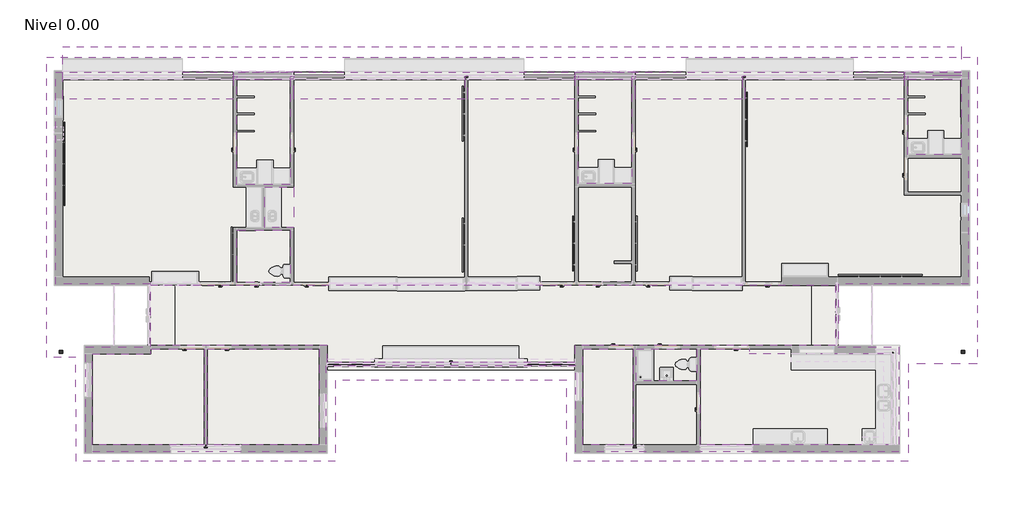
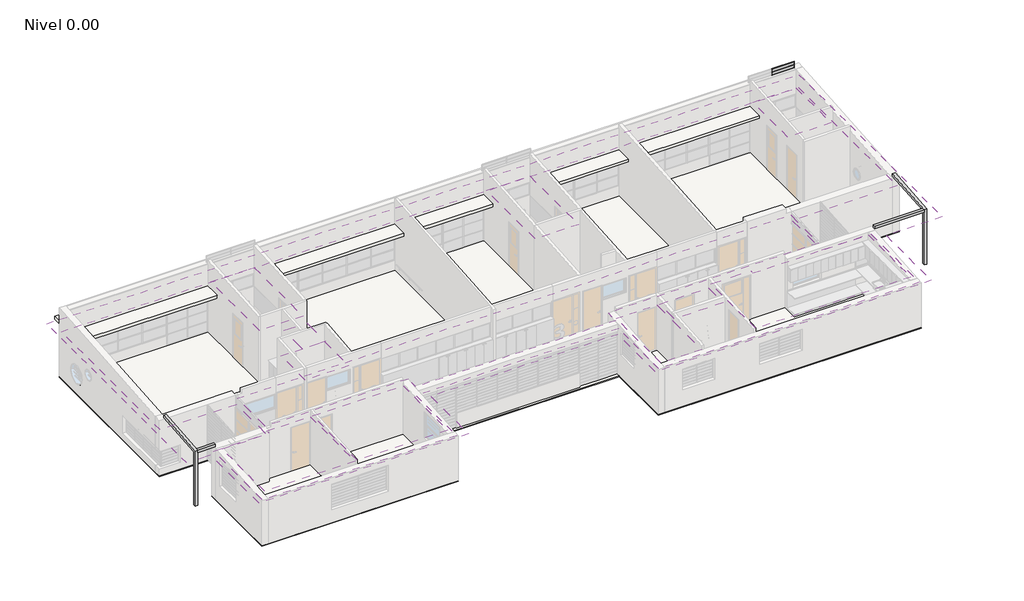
# One storey, part 26 of 27: 28 members, 22 slabs, 14 columns, 11 coverings, 7 plates, 2 proxies, 2 roofs.
"""IFC4 building model written with IfcOpenShell, lengths in millimetres."""

from ifc_helpers import new_model, si_unit, frame, origin, place, context, project, spatial, polyline, outline, extrude, faceted_brep, transform, mapped, element, save
from components import m_support_metal_circular_m_support_metal_circular_0da74429, column_d02f8714, column_a2f402ee, circular_mullion_eb3a7dd2, l_corner_mullion_c65f2da1, rectangular_mullion_bccfeea3, system_panel_921cbf43, system_panel_f5a5ada1

model = new_model("IFC4")

# Units and contexts
model_context = context("Model", 3, world=origin())
ifc_project = project(units=[si_unit("LENGTHUNIT", "METRE", prefix="MILLI")], contexts=[model_context])

# Site, building, storey
site = spatial("IfcSite", under=ifc_project)
building = spatial("IfcBuilding", under=site)
storey = spatial("IfcBuildingStorey", under=building, Name="Nivel 0.00", Elevation=0.0)

# Proxies
placement = place(None, origin())
m_support_metal_circular_m_support_metal_circular_shape = m_support_metal_circular_m_support_metal_circular_0da74429(model_context)
element("IfcBuildingElementProxy", 1, Name="M_Support - Metal - Circular : M_Support - Metal - Circular", ObjectType="M_Support - Metal - Circular : M_Support - Metal - Circular", at=placement, inside=storey, context=model_context, shape_type="MappedRepresentation", body=[
    mapped(m_support_metal_circular_m_support_metal_circular_shape, transform((-9520.5924627, -499.9017557, 420.0), x_axis=(0.0, -1.0, 0.0), y_axis=(1.0, 0.0, 0.0), z_axis=(0.0, 0.0, 1.0))),
])
element("IfcBuildingElementProxy", 2, Name="M_Support - Metal - Circular : M_Support - Metal - Circular", ObjectType="M_Support - Metal - Circular : M_Support - Metal - Circular", at=placement, inside=storey, context=model_context, shape_type="MappedRepresentation", body=[
    mapped(m_support_metal_circular_m_support_metal_circular_shape, transform((-930.5693128, -148.2731068, 420.0), x_axis=(0.0, -1.0, 0.0), y_axis=(1.0, 0.0, 0.0), z_axis=(0.0, 0.0, 1.0))),
])

# Columns
column_shape = column_d02f8714(model_context)
element("IfcColumn", 3, ObjectType="ARCO_MET-01 : ARCO_MET-01", at=placement, inside=storey, context=model_context, shape_type="MappedRepresentation", body=[
    mapped(column_shape, transform((0.0, 0.0, 0.0), x_axis=(1.0, 0.0, 0.0), y_axis=(0.0, 1.0, 0.0), z_axis=(0.0, 0.0, 1.0))),
])
column_2_shape = column_a2f402ee(model_context)
element("IfcColumn", 4, ObjectType="ARCO_MET-02 : ARCO_MET-02", at=placement, inside=storey, context=model_context, shape_type="MappedRepresentation", body=[
    mapped(column_2_shape, transform((0.0, 0.0, 0.0), x_axis=(1.0, 0.0, 0.0), y_axis=(0.0, 1.0, 0.0), z_axis=(0.0, 0.0, 1.0))),
])
element("IfcColumn", 5, ObjectType="ARQ_COLUMNA : ARQ_PIL_ALU_100x100mm", at=placement, inside=storey, context=model_context, shape_type="SweptSolid", body=[
    extrude(outline(polyline([(-1321.1221232, -3665.5609004), (-1321.1221232, -3765.5609004), (-1421.1221232, -3765.5609004), (-1421.1221232, -3665.5609004), (-1321.1221232, -3665.5609004)])), frame((0.0, 0.0, 700.0), z_axis=(0.0, 0.0, 1.0), x_axis=(1.0, 0.0, 0.0)), (0.0, 0.0, 1.0), 1400.0),
])
element("IfcColumn", 6, ObjectType="ARQ_COLUMNA : ARQ_PIL_ALU_100x100mm", at=placement, inside=storey, context=model_context, shape_type="SweptSolid", body=[
    extrude(outline(polyline([(-10437.8124755, -6790.6047653), (-10437.8124755, -6890.6047653), (-10537.8124755, -6890.6047653), (-10537.8124755, -6790.6047653), (-10437.8124755, -6790.6047653)])), frame((0.0, 0.0, 600.0), z_axis=(0.0, 0.0, 1.0), x_axis=(1.0, 0.0, 0.0)), (0.0, 0.0, 1.0), 1250.0),
])
element("IfcColumn", 7, ObjectType="ARQ_COLUMNA : ARQ_PIL_ALU_120x120mm", at=placement, inside=storey, context=model_context, shape_type="SweptSolid", body=[
    extrude(outline(polyline([(15605.1953298, 6929.4391195), (15605.1953298, 6809.4391195), (15485.1953298, 6809.4391195), (15485.1953298, 6929.4391195), (15605.1953298, 6929.4391195)])), frame((0.0, 0.0, 1500.0), z_axis=(0.0, 0.0, 1.0), x_axis=(1.0, 0.0, 0.0)), (0.0, 0.0, 1.0), 600.0),
])
element("IfcColumn", 8, ObjectType="ARQ_COLUMNA : ARQ_PIL_ALU_120x120mm", at=placement, inside=storey, context=model_context, shape_type="Brep", body=[
    faceted_brep([(9574.3567784, 6929.4460983, 2100.0), (9454.3567784, 6929.4460983, 2100.0), (9454.3567784, 6824.4390418, 2100.0), (9454.3567784, 6809.4460983, 2100.0), (9574.3567784, 6809.4460983, 2100.0), (9574.3567784, 6824.4390418, 2100.0), (9574.3567784, 6929.4460983, 500.0), (9574.3567784, 6809.4460983, 500.0), (9454.3567784, 6809.4460983, 500.0), (9454.3567784, 6929.4460983, 500.0)], [[[0, 1, 2, 3, 4, 5]], [[6, 7, 8, 9]], [[1, 0, 6, 9]], [[9, 8, 3, 2, 1]], [[4, 3, 8, 7]], [[7, 6, 0, 5, 4]]]),
])
element("IfcColumn", 9, ObjectType="ARQ_COLUMNA : ARQ_PIL_ALU_120x120mm", at=placement, inside=storey, context=model_context, shape_type="Brep", body=[
    faceted_brep([(3354.3810741, 6929.4388916, 2100.0), (3234.3810741, 6929.4388916, 2100.0), (3234.3810741, 6824.4390418, 2100.0), (3234.3810741, 6809.4388916, 2100.0), (3354.3810741, 6809.4388916, 2100.0), (3354.3810741, 6824.4390418, 2100.0), (3354.3810741, 6929.4388916, 1500.0), (3354.3810741, 6809.4388916, 1500.0), (3234.6614898, 6809.4388916, 1500.0), (3234.3810741, 6809.4388916, 1500.0), (3234.3810741, 6929.4388916, 1500.0)], [[[0, 1, 2, 3, 4, 5]], [[6, 7, 8, 9, 10]], [[1, 0, 6, 10]], [[10, 9, 3, 2, 1]], [[4, 3, 9, 8, 7]], [[7, 6, 0, 5, 4]]]),
])
element("IfcColumn", 10, ObjectType="ARQ_COLUMNA : ARQ_PIL_ALU_120x120mm", at=placement, inside=storey, context=model_context, shape_type="Brep", body=[
    faceted_brep([(5474.4935187, 6929.4388916, 2100.0), (5354.4935187, 6929.4388916, 2100.0), (5354.4935187, 6824.4390418, 2100.0), (5414.4935187, 6824.4390418, 2100.0), (5474.4935187, 6824.4390418, 2100.0), (5354.4935187, 6929.4388916, 1500.0), (5474.4935187, 6929.4388916, 1500.0), (5474.4935187, 6824.4390418, 1500.0), (5354.4935187, 6824.4390418, 1500.0)], [[[0, 1, 2, 3, 4]], [[5, 6, 7, 8]], [[1, 0, 6, 5]], [[1, 5, 8, 2]], [[6, 0, 4, 7]], [[4, 3, 2, 8, 7]]]),
])
element("IfcColumn", 11, ObjectType="ARQ_COLUMNA : ARQ_PIL_ALU_120x120mm", at=placement, inside=storey, context=model_context, shape_type="Brep", body=[
    faceted_brep([(-745.5693128, 6929.4278548, 2100.0), (-865.5693128, 6929.4278548, 2100.0), (-865.5693128, 6824.4390418, 2100.0), (-865.5693128, 6809.4278548, 2100.0), (-745.5693128, 6809.4278548, 2100.0), (-745.5693128, 6824.4390418, 2100.0), (-745.5693128, 6929.4278548, 500.0), (-745.5693128, 6809.4278548, 500.0), (-865.5693128, 6809.4278548, 500.0), (-865.5693128, 6929.4278548, 500.0)], [[[0, 1, 2, 3, 4, 5]], [[6, 7, 8, 9]], [[1, 0, 6, 9]], [[9, 8, 3, 2, 1]], [[4, 3, 8, 7]], [[7, 6, 0, 5, 4]]]),
])
element("IfcColumn", 12, ObjectType="ARQ_COLUMNA : ARQ_PIL_ALU_120x120mm", at=placement, inside=storey, context=model_context, shape_type="Brep", body=[
    faceted_brep([(-7215.5692731, 6929.439065, 2100.0), (-7335.5692731, 6929.439065, 2100.0), (-7335.5692731, 6824.4390418, 2100.0), (-7275.5692731, 6824.4390418, 2100.0), (-7215.5692731, 6824.4390418, 2100.0), (-7335.5692731, 6929.439065, 1500.0), (-7215.5692731, 6929.439065, 1500.0), (-7215.5692731, 6824.4390418, 1500.0), (-7335.5692731, 6824.4390418, 1500.0)], [[[0, 1, 2, 3, 4]], [[5, 6, 7, 8]], [[1, 0, 6, 5]], [[1, 5, 8, 2]], [[6, 0, 4, 7]], [[4, 3, 2, 8, 7]]]),
])
element("IfcColumn", 13, ObjectType="ARQ_COLUMNA : ARQ_PIL_ALU_120x120mm", at=placement, inside=storey, context=model_context, shape_type="Brep", body=[
    faceted_brep([(-9335.5691805, 6929.439065, 2100.0), (-9455.5691805, 6929.439065, 2100.0), (-9455.5691805, 6824.4390418, 2100.0), (-9455.5691805, 6809.439065, 2100.0), (-9335.5691805, 6809.439065, 2100.0), (-9335.5691805, 6824.4390418, 2100.0), (-9335.5691805, 6929.439065, 1500.0), (-9335.5691805, 6809.439065, 1500.0), (-9455.2388409, 6809.439065, 1500.0), (-9455.5691805, 6809.439065, 1500.0), (-9455.5691805, 6929.439065, 1500.0)], [[[0, 1, 2, 3, 4, 5]], [[6, 7, 8, 9, 10]], [[1, 0, 6, 10]], [[10, 9, 3, 2, 1]], [[4, 3, 9, 8, 7]], [[7, 6, 0, 5, 4]]]),
])
element("IfcColumn", 14, ObjectType="ARQ_COLUMNA : ARQ_PIL_ALU_120x120mm", at=placement, inside=storey, context=model_context, shape_type="SweptSolid", body=[
    extrude(outline(polyline([(5519.9777624, -6790.6055729), (5519.9777624, -6910.6055729), (5399.9777624, -6910.6055729), (5399.9777624, -6790.6055729), (5519.9777624, -6790.6055729)])), frame((0.0, 0.0, 800.0), z_axis=(0.0, 0.0, 1.0), x_axis=(1.0, 0.0, 0.0)), (0.0, 0.0, 1.0), 1000.0),
])
element("IfcColumn", 15, ObjectType="ARQ_COLUMNA : ARQ_PIL_ALU_50x50mm", at=placement, inside=storey, context=model_context, shape_type="SweptSolid", body=[
    extrude(outline(polyline([(-15805.2266664, -540.5588937), (-15805.2266664, -590.5588937), (-15855.2266664, -590.5588937), (-15855.2266664, -540.5588937), (-15805.2266664, -540.5588937)])), frame((0.0, 0.0, 300.0), z_axis=(0.0, 0.0, 1.0), x_axis=(1.0, 0.0, 0.0)), (0.0, 0.0, 1.0), 850.0),
])
element("IfcColumn", 16, ObjectType="ARQ_COLUMNA : ARQ_PIL_ALU_50x50mm", at=placement, inside=storey, context=model_context, shape_type="SweptSolid", body=[
    extrude(outline(polyline([(15075.5015264, -3340.6637592), (15075.5015264, -3390.6637592), (15025.5015264, -3390.6637592), (15025.5015264, -3340.6637592), (15075.5015264, -3340.6637592)])), frame((0.0, 0.0, 950.0), z_axis=(0.0, 0.0, 1.0), x_axis=(1.0, 0.0, 0.0)), (0.0, 0.0, 1.0), 550.0),
])

# Coverings
element("IfcCovering", 17, ObjectType="ARQ_CL_MOD_600x600mm", at=placement, inside=storey, context=model_context, shape_type="SweptSolid", body=[
    extrude(outline(polyline([(-7335.5692854, -740.6078399), (-9335.5924627, -740.6078399), (-9335.5924627, 1209.3953137), (-7335.5692854, 1209.3953137), (-7335.5692854, -740.6078399)])), frame((0.0, 0.0, 2200.0), z_axis=(0.0, 0.0, 1.0), x_axis=(1.0, 0.0, 0.0)), (0.0, 0.0, 1.0), 30.0),
])
element("IfcCovering", 18, ObjectType="ARQ_CL_MOD_600x600mm", at=placement, inside=storey, context=model_context, shape_type="SweptSolid", body=[
    extrude(outline(polyline([(-8385.569245, 2809.3952268), (-8385.569245, 1309.3953848), (-9455.5691805, 1309.3953848), (-9455.5691805, 2809.3952268), (-8385.569245, 2809.3952268)])), frame((0.0, 0.0, 2100.0), z_axis=(0.0, 0.0, 1.0), x_axis=(1.0, 0.0, 0.0)), (0.0, 0.0, 1.0), 30.0),
    extrude(outline(polyline([(-8285.569245, 2809.3952268), (-7215.5692731, 2809.3952268), (-7215.5692731, 1309.3953137), (-8285.569245, 1309.3953137), (-8285.569245, 2809.3952268)])), frame((0.0, 0.0, 2100.0), z_axis=(0.0, 0.0, 1.0), x_axis=(1.0, 0.0, 0.0)), (0.0, 0.0, 1.0), 30.0),
])
element("IfcCovering", 19, ObjectType="ARQ_CL_MOD_600x600mm", at=placement, inside=storey, context=model_context, shape_type="SweptSolid", body=[
    extrude(outline(polyline([(-7335.5692731, 2909.3952268), (-9335.5691805, 2909.3952268), (-9335.5691805, 6824.4390418), (-7335.5692731, 6824.4390418), (-7335.5692731, 2909.3952268)])), frame((0.0, 0.0, 2400.0), z_axis=(0.0, 0.0, 1.0), x_axis=(1.0, 0.0, 0.0)), (0.0, 0.0, 1.0), 30.0),
])
element("IfcCovering", 20, ObjectType="ARQ_CL_MOD_600x600mm", at=placement, inside=storey, context=model_context, shape_type="SweptSolid", body=[
    extrude(outline(polyline([(5354.4935187, 2929.3952347), (3354.3810741, 2929.3952347), (3354.3810741, 6824.4390418), (5354.4935187, 6824.4390418), (5354.4935187, 2929.3952347)])), frame((0.0, 0.0, 2400.0), z_axis=(0.0, 0.0, 1.0), x_axis=(1.0, 0.0, 0.0)), (0.0, 0.0, 1.0), 30.0),
])
element("IfcCovering", 21, ObjectType="ARQ_CL_MOD_600x600mm", at=placement, inside=storey, context=model_context, shape_type="SweptSolid", body=[
    extrude(outline(polyline([(15605.1953298, 6824.4390418), (17597.6952928, 6824.4390418), (17597.6952928, 4009.0718892), (15605.1953298, 4009.0718892), (15605.1953298, 6824.4390418)])), frame((0.0, 0.0, 2400.0), z_axis=(0.0, 0.0, 1.0), x_axis=(1.0, 0.0, 0.0)), (0.0, 0.0, 1.0), 30.0),
])
element("IfcCovering", 22, ObjectType="ARQ_CL_MOD_600x600mm", at=placement, inside=storey, context=model_context, shape_type="Brep", body=[
    faceted_brep([(7889.9777626, -3210.5319613, 2670.0982678), (7889.9777626, -6790.5282624, 2380.0982678), (15025.5015264, -6790.5282624, 2380.0982678), (15025.5015264, -3390.6637592, 2655.5065708), (9717.262327, -3390.6637592, 2655.5065708), (9717.262327, -3210.5319613, 2670.0982678), (7889.9777626, -3210.5319613, 2640.0), (9717.262327, -3210.5319613, 2640.0), (9717.262327, -3390.6637592, 2625.408303), (15025.5015264, -3390.6637592, 2625.408303), (15025.5015264, -6790.5282624, 2350.0), (7889.9777626, -6790.5282624, 2350.0)], [[[0, 1, 2, 3, 4, 5]], [[6, 7, 8, 9, 10, 11]], [[1, 0, 6, 11]], [[2, 1, 11, 10]], [[3, 2, 10, 9]], [[4, 3, 9, 8]], [[5, 4, 8, 7]], [[0, 5, 7, 6]]]),
])
element("IfcCovering", 23, ObjectType="ARQ_CL_MOD_600x600mm", at=placement, inside=storey, context=model_context, shape_type="SweptSolid", body=[
    extrude(outline(polyline([(7769.9777626, -3210.6056693), (7769.9777626, -4410.6056693), (5519.9777624, -4410.6056693), (5519.9777624, -3210.6056693), (7769.9777626, -3210.6056693)])), frame((0.0, 0.0, 2200.0), z_axis=(0.0, 0.0, 1.0), x_axis=(1.0, 0.0, 0.0)), (0.0, 0.0, 1.0), 30.0),
])
element("IfcCovering", 24, ObjectType="ARQ_CL_MOD_600x600mm", at=placement, inside=storey, context=model_context, shape_type="SweptSolid", body=[
    extrude(outline(polyline([(5399.9777624, -6790.6055729), (3527.1464348, -6790.6055729), (3527.1464348, -3210.6056693), (5399.9777624, -3210.6056693), (5399.9777624, -4450.6055729), (5399.9777624, -4495.6055729), (5399.9777624, -6790.6055729)])), frame((0.0, 0.0, 2200.0), z_axis=(0.0, 0.0, 1.0), x_axis=(1.0, 0.0, 0.0)), (0.0, 0.0, 1.0), 30.0),
])
element("IfcCovering", 25, ObjectType="ARQ_CL_MOD_600x600mm", at=placement, inside=storey, context=model_context, shape_type="SweptSolid", body=[
    extrude(outline(polyline([(-12535.2388411, -840.5291193), (12922.2725252, -840.5291132), (12922.2749922, -3090.594208), (3227.4757858, -3090.5282622), (3227.4767742, -3715.5609004), (-5969.7254308, -3715.5609004), (-5969.7254308, -3090.5609004), (-12535.2388411, -3090.5608841), (-12535.2388411, -840.5291193)])), frame((0.0, 0.0, 2500.0), z_axis=(0.0, 0.0, 1.0), x_axis=(1.0, 0.0, 0.0)), (0.0, 0.0, 1.0), 30.0),
])
element("IfcCovering", 26, ObjectType="ARQ_CL_MOD_600x600mm", at=placement, inside=storey, context=model_context, shape_type="Brep", body=[
    faceted_brep([(-14705.5691788, -6790.6047653, 2380.0982676), (-10537.8124755, -6790.6047653, 2380.0982676), (-10537.8124755, -3210.6047653, 2670.0982676), (-12532.853063, -3210.6047653, 2670.0982676), (-12532.853063, -3398.1047653, 2654.9097201), (-14705.5691788, -3398.1047653, 2654.9097201), (-14705.5691788, -6790.6047653, 2350.0), (-14705.5691788, -3398.1047653, 2624.8114525), (-12532.853063, -3398.1047653, 2624.8114525), (-12532.853063, -3210.6047653, 2640.0), (-10537.8124755, -3210.6047653, 2640.0), (-10537.8124755, -6790.6047653, 2350.0)], [[[0, 1, 2, 3, 4, 5]], [[6, 7, 8, 9, 10, 11]], [[1, 0, 6, 11]], [[2, 1, 11, 10]], [[3, 2, 10, 9]], [[4, 3, 9, 8]], [[5, 4, 8, 7]], [[0, 5, 7, 6]]]),
])
element("IfcCovering", 27, ObjectType="ARQ_CL_MOD_600x600mm", at=placement, inside=storey, context=model_context, shape_type="SweptSolid", body=[
    extrude(outline(polyline([(-6790.6047653, 2380.0982676), (-3210.6047653, 2670.0982676), (-3210.6047653, 2640.0), (-6790.6047653, 2350.0), (-6790.6047653, 2380.0982676)])), frame((-10437.8124755, 0.0, 0.0), z_axis=(1.0, 0.0, 0.0), x_axis=(0.0, 1.0, 0.0)), (0.0, 0.0, 1.0), 4167.7567049),
])

# Members
circular_mullion_shape = circular_mullion_eb3a7dd2(model_context)
element("IfcMember", 28, ObjectType="Circular Mullion : ARQ_HERR_16mm", at=placement, inside=storey, context=model_context, shape_type="MappedRepresentation", body=[
    mapped(circular_mullion_shape, transform((17591.6952928, 6959.43912, 1650.0), x_axis=(0.0, 0.0, 1.0), y_axis=(0.0, -1.0, 0.0), z_axis=(1.0, 0.0, 0.0))),
])
element("IfcMember", 29, ObjectType="Circular Mullion : ARQ_HERR_16mm", at=placement, inside=storey, context=model_context, shape_type="MappedRepresentation", body=[
    mapped(circular_mullion_shape, transform((17591.6952928, 6959.43912, 1800.0), x_axis=(0.0, 0.0, 1.0), y_axis=(0.0, -1.0, 0.0), z_axis=(1.0, 0.0, 0.0))),
])
element("IfcMember", 30, ObjectType="Circular Mullion : ARQ_HERR_16mm", at=placement, inside=storey, context=model_context, shape_type="MappedRepresentation", body=[
    mapped(circular_mullion_shape, transform((17591.6952928, 6959.43912, 1950.0), x_axis=(0.0, 0.0, 1.0), y_axis=(0.0, -1.0, 0.0), z_axis=(1.0, 0.0, 0.0))),
])
element("IfcMember", 31, ObjectType="Circular Mullion : ARQ_HERR_16mm", at=placement, inside=storey, context=model_context, shape_type="MappedRepresentation", body=[
    mapped(circular_mullion_shape, transform((17591.6952928, 6959.43912, 2100.0), x_axis=(0.0, 0.0, 1.0), y_axis=(0.0, -1.0, 0.0), z_axis=(1.0, 0.0, 0.0))),
])
element("IfcMember", 32, ObjectType="Circular Mullion : ARQ_HERR_16mm", at=placement, inside=storey, context=model_context, shape_type="MappedRepresentation", body=[
    mapped(circular_mullion_shape, transform((17591.6952928, 6959.43912, 2250.0), x_axis=(0.0, 0.0, 1.0), y_axis=(0.0, -1.0, 0.0), z_axis=(1.0, 0.0, 0.0))),
])
element("IfcMember", 33, ObjectType="Circular Mullion : ARQ_HERR_16mm", at=placement, inside=storey, context=model_context, shape_type="MappedRepresentation", body=[
    mapped(circular_mullion_shape, transform((17591.6952928, 6959.43912, 2400.0), x_axis=(0.0, 0.0, 1.0), y_axis=(0.0, -1.0, 0.0), z_axis=(1.0, 0.0, 0.0))),
])
element("IfcMember", 34, ObjectType="Circular Mullion : ARQ_HERR_16mm", at=placement, inside=storey, context=model_context, shape_type="MappedRepresentation", body=[
    mapped(circular_mullion_shape, transform((17591.6952928, 6959.43912, 2550.0), x_axis=(0.0, 0.0, 1.0), y_axis=(0.0, -1.0, 0.0), z_axis=(1.0, 0.0, 0.0))),
])
element("IfcMember", 35, ObjectType="Circular Mullion : ARQ_HERR_16mm", at=placement, inside=storey, context=model_context, shape_type="MappedRepresentation", body=[
    mapped(circular_mullion_shape, transform((17591.6952928, 6959.43912, 2700.0), x_axis=(0.0, 0.0, 1.0), y_axis=(0.0, -1.0, 0.0), z_axis=(1.0, 0.0, 0.0))),
])
element("IfcMember", 36, ObjectType="Circular Mullion : ARQ_HERR_16mm", at=placement, inside=storey, context=model_context, shape_type="MappedRepresentation", body=[
    mapped(circular_mullion_shape, transform((17591.6952928, 6959.43912, 2850.0), x_axis=(0.0, 0.0, 1.0), y_axis=(0.0, -1.0, 0.0), z_axis=(1.0, 0.0, 0.0))),
])
element("IfcMember", 37, ObjectType="Circular Mullion : ARQ_HERR_16mm", at=placement, inside=storey, context=model_context, shape_type="MappedRepresentation", body=[
    mapped(circular_mullion_shape, transform((17591.6952928, 6959.43912, 3000.0), x_axis=(0.0, 0.0, 1.0), y_axis=(0.0, -1.0, 0.0), z_axis=(1.0, 0.0, 0.0))),
])
element("IfcMember", 38, ObjectType="Circular Mullion : ARQ_HERR_16mm", at=placement, inside=storey, context=model_context, shape_type="MappedRepresentation", body=[
    mapped(circular_mullion_shape, transform((17591.6952928, 6959.43912, 3150.0), x_axis=(0.0, 0.0, 1.0), y_axis=(0.0, -1.0, 0.0), z_axis=(1.0, 0.0, 0.0))),
])
element("IfcMember", 39, ObjectType="Circular Mullion : ARQ_HERR_16mm", at=placement, inside=storey, context=model_context, shape_type="MappedRepresentation", body=[
    mapped(circular_mullion_shape, transform((17591.6952928, 6959.43912, 3300.0), x_axis=(0.0, 0.0, 1.0), y_axis=(0.0, -1.0, 0.0), z_axis=(1.0, 0.0, 0.0))),
])
element("IfcMember", 40, ObjectType="Circular Mullion : ARQ_HERR_16mm", at=placement, inside=storey, context=model_context, shape_type="MappedRepresentation", body=[
    mapped(circular_mullion_shape, transform((17591.6952928, 6959.43912, 3450.0), x_axis=(0.0, 0.0, 1.0), y_axis=(0.0, -1.0, 0.0), z_axis=(1.0, 0.0, 0.0))),
])
l_corner_mullion_shape = l_corner_mullion_c65f2da1(model_context)
element("IfcMember", 41, ObjectType="L Corner Mullion : ARQ_HERR_15X6mm", at=placement, inside=storey, context=model_context, shape_type="MappedRepresentation", body=[
    mapped(l_corner_mullion_shape, transform((17591.6952928, 6959.43912, 3600.0), x_axis=(0.0, 0.0, 1.0), y_axis=(0.0, -1.0, 0.0), z_axis=(1.0, 0.0, 0.0))),
])
rectangular_mullion_shape = rectangular_mullion_bccfeea3(model_context)
element("IfcMember", 42, ObjectType="Rectangular Mullion : ARQ_HERR_15X6mm", at=placement, inside=storey, context=model_context, shape_type="MappedRepresentation", body=[
    mapped(rectangular_mullion_shape, transform((17597.6952928, 6959.43912, 1500.0), x_axis=(1.0, 0.0, 0.0), y_axis=(0.0, -1.0, 0.0), z_axis=(0.0, 0.0, -1.0))),
])
element("IfcMember", 43, ObjectType="Rectangular Mullion : ARQ_HERR_15X6mm", at=placement, inside=storey, context=model_context, shape_type="MappedRepresentation", body=[
    mapped(rectangular_mullion_shape, transform((17597.6952928, 6959.43912, 1650.0), x_axis=(1.0, 0.0, 0.0), y_axis=(0.0, -1.0, 0.0), z_axis=(0.0, 0.0, -1.0))),
])
element("IfcMember", 44, ObjectType="Rectangular Mullion : ARQ_HERR_15X6mm", at=placement, inside=storey, context=model_context, shape_type="MappedRepresentation", body=[
    mapped(rectangular_mullion_shape, transform((17597.6952928, 6959.43912, 1800.0), x_axis=(1.0, 0.0, 0.0), y_axis=(0.0, -1.0, 0.0), z_axis=(0.0, 0.0, -1.0))),
])
element("IfcMember", 45, ObjectType="Rectangular Mullion : ARQ_HERR_15X6mm", at=placement, inside=storey, context=model_context, shape_type="MappedRepresentation", body=[
    mapped(rectangular_mullion_shape, transform((17597.6952928, 6959.43912, 1950.0), x_axis=(1.0, 0.0, 0.0), y_axis=(0.0, -1.0, 0.0), z_axis=(0.0, 0.0, -1.0))),
])
element("IfcMember", 46, ObjectType="Rectangular Mullion : ARQ_HERR_15X6mm", at=placement, inside=storey, context=model_context, shape_type="MappedRepresentation", body=[
    mapped(rectangular_mullion_shape, transform((17597.6952928, 6959.43912, 2100.0), x_axis=(1.0, 0.0, 0.0), y_axis=(0.0, -1.0, 0.0), z_axis=(0.0, 0.0, -1.0))),
])
element("IfcMember", 47, ObjectType="Rectangular Mullion : ARQ_HERR_15X6mm", at=placement, inside=storey, context=model_context, shape_type="MappedRepresentation", body=[
    mapped(rectangular_mullion_shape, transform((17597.6952928, 6959.43912, 2250.0), x_axis=(1.0, 0.0, 0.0), y_axis=(0.0, -1.0, 0.0), z_axis=(0.0, 0.0, -1.0))),
])
element("IfcMember", 48, ObjectType="Rectangular Mullion : ARQ_HERR_15X6mm", at=placement, inside=storey, context=model_context, shape_type="MappedRepresentation", body=[
    mapped(rectangular_mullion_shape, transform((17597.6952928, 6959.43912, 2400.0), x_axis=(1.0, 0.0, 0.0), y_axis=(0.0, -1.0, 0.0), z_axis=(0.0, 0.0, -1.0))),
])
element("IfcMember", 49, ObjectType="Rectangular Mullion : ARQ_HERR_15X6mm", at=placement, inside=storey, context=model_context, shape_type="MappedRepresentation", body=[
    mapped(rectangular_mullion_shape, transform((17597.6952928, 6959.43912, 2550.0), x_axis=(1.0, 0.0, 0.0), y_axis=(0.0, -1.0, 0.0), z_axis=(0.0, 0.0, -1.0))),
])
element("IfcMember", 50, ObjectType="Rectangular Mullion : ARQ_HERR_15X6mm", at=placement, inside=storey, context=model_context, shape_type="MappedRepresentation", body=[
    mapped(rectangular_mullion_shape, transform((17597.6952928, 6959.43912, 2700.0), x_axis=(1.0, 0.0, 0.0), y_axis=(0.0, -1.0, 0.0), z_axis=(0.0, 0.0, -1.0))),
])
element("IfcMember", 51, ObjectType="Rectangular Mullion : ARQ_HERR_15X6mm", at=placement, inside=storey, context=model_context, shape_type="MappedRepresentation", body=[
    mapped(rectangular_mullion_shape, transform((17597.6952928, 6959.43912, 2850.0), x_axis=(1.0, 0.0, 0.0), y_axis=(0.0, -1.0, 0.0), z_axis=(0.0, 0.0, -1.0))),
])
element("IfcMember", 52, ObjectType="Rectangular Mullion : ARQ_HERR_15X6mm", at=placement, inside=storey, context=model_context, shape_type="MappedRepresentation", body=[
    mapped(rectangular_mullion_shape, transform((17597.6952928, 6959.43912, 3000.0), x_axis=(1.0, 0.0, 0.0), y_axis=(0.0, -1.0, 0.0), z_axis=(0.0, 0.0, -1.0))),
])
element("IfcMember", 53, ObjectType="Rectangular Mullion : ARQ_HERR_15X6mm", at=placement, inside=storey, context=model_context, shape_type="MappedRepresentation", body=[
    mapped(rectangular_mullion_shape, transform((17597.6952928, 6959.43912, 3150.0), x_axis=(1.0, 0.0, 0.0), y_axis=(0.0, -1.0, 0.0), z_axis=(0.0, 0.0, -1.0))),
])
element("IfcMember", 54, ObjectType="Rectangular Mullion : ARQ_HERR_15X6mm", at=placement, inside=storey, context=model_context, shape_type="MappedRepresentation", body=[
    mapped(rectangular_mullion_shape, transform((17597.6952928, 6959.43912, 3300.0), x_axis=(1.0, 0.0, 0.0), y_axis=(0.0, -1.0, 0.0), z_axis=(0.0, 0.0, -1.0))),
])
element("IfcMember", 55, ObjectType="Rectangular Mullion : ARQ_HERR_15X6mm", at=placement, inside=storey, context=model_context, shape_type="MappedRepresentation", body=[
    mapped(rectangular_mullion_shape, transform((17597.6952928, 6959.43912, 3450.0), x_axis=(1.0, 0.0, 0.0), y_axis=(0.0, -1.0, 0.0), z_axis=(0.0, 0.0, -1.0))),
])

# Plates
system_panel_shape = system_panel_921cbf43(model_context)
element("IfcPlate", 56, ObjectType="System Panel : VACÍO", at=placement, inside=storey, context=model_context, shape_type="MappedRepresentation", body=[
    mapped(system_panel_shape, transform((17069.570302, 6959.43912, 3458.0), x_axis=(1.0, 0.0, 0.0), y_axis=(0.0, 1.0, 0.0), z_axis=(0.0, 0.0, 1.0))),
])
system_panel_2_shape = system_panel_f5a5ada1(model_context)
element("IfcPlate", 57, ObjectType="System Panel : VACÍO", at=placement, inside=storey, context=model_context, shape_type="MappedRepresentation", body=[
    mapped(system_panel_2_shape, transform((17069.570302, 6959.43912, 2558.0), x_axis=(1.0, 0.0, 0.0), y_axis=(0.0, 1.0, 0.0), z_axis=(0.0, 0.0, 1.0))),
])
element("IfcPlate", 58, ObjectType="System Panel : VACÍO", at=placement, inside=storey, context=model_context, shape_type="MappedRepresentation", body=[
    mapped(system_panel_2_shape, transform((17069.570302, 6959.43912, 2708.0), x_axis=(1.0, 0.0, 0.0), y_axis=(0.0, 1.0, 0.0), z_axis=(0.0, 0.0, 1.0))),
])
element("IfcPlate", 59, ObjectType="System Panel : VACÍO", at=placement, inside=storey, context=model_context, shape_type="MappedRepresentation", body=[
    mapped(system_panel_2_shape, transform((17069.570302, 6959.43912, 2858.0), x_axis=(1.0, 0.0, 0.0), y_axis=(0.0, 1.0, 0.0), z_axis=(0.0, 0.0, 1.0))),
])
element("IfcPlate", 60, ObjectType="System Panel : VACÍO", at=placement, inside=storey, context=model_context, shape_type="MappedRepresentation", body=[
    mapped(system_panel_2_shape, transform((17069.570302, 6959.43912, 3008.0), x_axis=(1.0, 0.0, 0.0), y_axis=(0.0, 1.0, 0.0), z_axis=(0.0, 0.0, 1.0))),
])
element("IfcPlate", 61, ObjectType="System Panel : VACÍO", at=placement, inside=storey, context=model_context, shape_type="MappedRepresentation", body=[
    mapped(system_panel_2_shape, transform((17069.570302, 6959.43912, 3158.0), x_axis=(1.0, 0.0, 0.0), y_axis=(0.0, 1.0, 0.0), z_axis=(0.0, 0.0, 1.0))),
])
element("IfcPlate", 62, ObjectType="System Panel : VACÍO", at=placement, inside=storey, context=model_context, shape_type="MappedRepresentation", body=[
    mapped(system_panel_2_shape, transform((17069.570302, 6959.43912, 3308.0), x_axis=(1.0, 0.0, 0.0), y_axis=(0.0, 1.0, 0.0), z_axis=(0.0, 0.0, 1.0))),
])

# Roofs
element("IfcRoof", 63, ObjectType="CUBIERTA_ISODEC_8%", at=placement, inside=storey, context=model_context, shape_type="Brep", body=[
    faceted_brep([(-16405.4704447, -3533.0607118, 2650.5486286), (-16405.4704447, 7639.4390418, 3550.0), (18205.5256328, 7639.4390418, 3550.0), (18205.5256328, -3778.8293604, 2630.7628194), (15625.5015264, -3778.8293604, 2630.7628194), (15625.5015264, -7390.5282622, 2339.9999998), (2927.4757858, -7390.5282622, 2339.9999998), (2927.4757858, -4390.5609032, 2581.5148635), (-5669.7254307, -4390.5609032, 2581.5148635), (-5669.7254307, -7390.5282597, 2340.0), (-15305.2388407, -7390.5282597, 2340.0), (-15314.316854, -3533.0607118, 2650.5486286), (-16405.4704447, 7639.4390418, 3700.4853041), (-16405.4704447, -3533.0607118, 2801.0339327), (-15314.316854, -3533.0607118, 2801.0339327), (-15305.2388407, -7390.5282597, 2490.4853041), (-5669.7254307, -7390.5282597, 2490.4853041), (-5669.7254307, -4390.5609032, 2732.0001676), (2927.4757858, -4390.5609032, 2732.0001676), (2927.4757858, -7390.5282622, 2490.4853039), (15625.5015264, -7390.5282622, 2490.4853039), (15625.5015264, -3778.8293604, 2781.2481235), (18205.5256328, -3778.8293604, 2781.2481235), (18205.5256328, 7639.4390418, 3700.4853041)], [[[0, 1, 2, 3, 4, 5, 6, 7, 8, 9, 10, 11]], [[12, 13, 14, 15, 16, 17, 18, 19, 20, 21, 22, 23]], [[13, 12, 1, 0]], [[12, 23, 2, 1]], [[23, 22, 3, 2]], [[22, 21, 4, 3]], [[21, 20, 5, 4]], [[20, 19, 6, 5]], [[19, 18, 7, 6]], [[18, 17, 8, 7]], [[17, 16, 9, 8]], [[16, 15, 10, 9]], [[15, 14, 11, 10]], [[14, 13, 0, 11]]]),
])
element("IfcRoof", 64, ObjectType="VIGA_HA", at=placement, inside=storey, context=model_context, shape_type="Brep", body=[
    faceted_brep([(-16055.4703321, 7089.4390418, 3305.0), (17862.6952928, 7089.4390418, 3305.0), (17862.6952928, -798.1235845, 2668.6381092), (13033.3180123, -798.1235845, 2668.6381092), (13033.3180123, -3140.6637592, 2479.6439464), (15275.5015264, -3140.6637592, 2479.6439464), (15275.5015264, -7040.6055729, 2164.9999348), (3277.1464348, -7040.6055729, 2164.9999348), (3277.1464348, -3840.5609004, 2423.1768362), (-6020.0557705, -3840.5609004, 2423.1768362), (-6020.0557705, -7040.6047653, 2165.0), (-14950.0, -7040.6047653, 2165.0), (-14950.0, -3133.1047653, 2480.2537997), (-12535.2388411, -3133.1047653, 2480.2537997), (-12535.2388411, -798.0609004, 2668.6431665), (-16055.4703321, -798.0609004, 2668.6431665), (17597.6952928, 6858.6242925, 3286.378061), (-15805.8995201, 6858.6242925, 3286.378061), (-15805.8995201, -533.0609004, 2690.0231427), (-12332.853063, -533.0609004, 2690.0231427), (-12332.853063, -3398.1047653, 2458.8738235), (-14705.5691788, -3398.1047653, 2458.8738235), (-14705.5691788, -6790.6047653, 2185.1697888), (-6270.0557705, -6790.6047653, 2185.1697888), (-6270.0557705, -3590.5609004, 2443.3466251), (3527.1464348, -3590.5609004, 2443.3466251), (3527.1464348, -6790.6055729, 2185.1697237), (15025.5015264, -6790.6055729, 2185.1697237), (15025.5015264, -3390.6637592, 2459.4741576), (12722.2753212, -3390.6637592, 2459.4741576), (12722.2721881, -533.1235845, 2690.0180854), (17597.6952928, -533.1235845, 2690.0180854), (17862.6952928, 7089.4390418, 3505.6498568), (-16055.4703321, 7089.4390418, 3505.6498568), (-16055.4703321, -798.0609004, 2869.2930233), (-12535.2388411, -798.0609004, 2869.2930233), (-12535.2388411, -3133.1047653, 2680.9036565), (-14950.0, -3133.1047653, 2680.9036565), (-14950.0, -7040.6047653, 2365.6498568), (-6020.0557705, -7040.6047653, 2365.6498568), (-6020.0557705, -3840.5609004, 2623.8266931), (3277.1464348, -3840.5609004, 2623.8266931), (3277.1464348, -7040.6055729, 2365.6497917), (15275.5015264, -7040.6055729, 2365.6497917), (15275.5015264, -3140.6637592, 2680.2938033), (13033.3180123, -3140.6637592, 2680.2938033), (13033.3180123, -798.1235845, 2869.287966), (17862.6952928, -798.1235845, 2869.287966), (-15805.8995201, 6858.6242925, 3487.0279178), (17597.6952928, 6858.6242925, 3487.0279178), (17597.6952928, -533.1235845, 2890.6679422), (12722.2721881, -533.1235845, 2890.6679422), (12722.2753212, -3390.6637592, 2660.1240144), (15025.5015264, -3390.6637592, 2660.1240144), (15025.5015264, -6790.6055729, 2385.8195805), (3527.1464348, -6790.6055729, 2385.8195805), (3527.1464348, -3590.5609004, 2643.9964819), (-6270.0557705, -3590.5609004, 2643.9964819), (-6270.0557705, -6790.6047653, 2385.8196457), (-14705.5691788, -6790.6047653, 2385.8196457), (-14705.5691788, -3398.1047653, 2659.5236803), (-12332.853063, -3398.1047653, 2659.5236803), (-12332.853063, -533.0609004, 2890.6729995), (-15805.8995201, -533.0609004, 2890.6729995)], [[[0, 1, 2, 3, 4, 5, 6, 7, 8, 9, 10, 11, 12, 13, 14, 15], [16, 17, 18, 19, 20, 21, 22, 23, 24, 25, 26, 27, 28, 29, 30, 31]], [[32, 33, 34, 35, 36, 37, 38, 39, 40, 41, 42, 43, 44, 45, 46, 47], [48, 49, 50, 51, 52, 53, 54, 55, 56, 57, 58, 59, 60, 61, 62, 63]], [[1, 0, 33, 32]], [[0, 15, 34, 33]], [[15, 14, 35, 34]], [[12, 11, 38, 37]], [[11, 10, 39, 38]], [[10, 9, 40, 39]], [[9, 8, 41, 40]], [[8, 7, 42, 41]], [[7, 6, 43, 42]], [[6, 5, 44, 43]], [[5, 4, 45, 44]], [[3, 2, 47, 46]], [[2, 1, 32, 47]], [[13, 12, 37, 36]], [[14, 13, 36, 35]], [[4, 3, 46, 45]], [[48, 17, 16, 49]], [[49, 16, 31, 50]], [[50, 31, 30, 51]], [[51, 30, 29, 52]], [[52, 29, 28, 53]], [[53, 28, 27, 54]], [[54, 27, 26, 55]], [[55, 26, 25, 56]], [[56, 25, 24, 57]], [[57, 24, 23, 58]], [[58, 23, 22, 59]], [[59, 22, 21, 60]], [[60, 21, 20, 61]], [[61, 20, 19, 62]], [[62, 19, 18, 63]], [[17, 48, 63, 18]]]),
])

# Slabs
element("IfcSlab", 65, ObjectType="ARQ_PAV_TAPETE FELPUDO", at=placement, inside=storey, context=model_context, shape_type="SweptSolid", body=[
    extrude(outline(polyline([(-12635.238841, -3090.6055729), (-12635.238841, -848.0609004), (-12595.5666682, -848.0609004), (-12595.5666682, -840.6093113), (-11630.1369456, -840.6093113), (-11630.1369456, -3090.6055729), (-12635.238841, -3090.6055729)])), frame((0.0, 0.0, -20.0), z_axis=(0.0, 0.0, 1.0), x_axis=(1.0, 0.0, 0.0)), (0.0, 0.0, 1.0), 20.0),
])
element("IfcSlab", 66, ObjectType="ARQ_PAV_TAPETE FELPUDO", at=placement, inside=storey, context=model_context, shape_type="SweptSolid", body=[
    extrude(outline(polyline([(12022.2725255, -3090.6637592), (12022.2725255, -848.1235845), (13022.2725254, -848.1235845), (13022.2725254, -3090.6637592), (12022.2725255, -3090.6637592)])), frame((0.0, 0.0, -20.0), z_axis=(0.0, 0.0, 1.0), x_axis=(1.0, 0.0, 0.0)), (0.0, 0.0, 1.0), 20.0),
])
element("IfcSlab", 67, ObjectType="STR_FND_SOBRESUELO_30mm", at=placement, inside=storey, context=model_context, shape_type="SweptSolid", body=[
    extrude(outline(polyline([(17912.6952928, -848.1235845), (13022.2725254, -848.1235845), (13022.2725254, -3090.6637592), (15325.5015264, -3090.6637592), (15325.5015264, -7090.6055729), (3227.1464348, -7090.6055729), (3227.1464348, -3990.5740908), (-5970.0557705, -3990.5740908), (-5970.0557705, -7090.6047653), (-15005.5691803, -7090.6047653), (-15005.5691803, -3083.1047653), (-12635.238841, -3083.1047653), (-12635.238841, -848.0609004), (-16120.8995201, -848.0609004), (-16120.8995201, 7139.4390418), (-15805.8995201, 7139.4390418), (-15805.8995201, 7079.4391195), (17597.6952928, 7079.4391195), (17597.6952928, 7139.4390418), (17912.6952928, 7139.4390418), (17912.6952928, -848.1235845)])), frame((0.0, 0.0, -50.0), z_axis=(0.0, 0.0, 1.0), x_axis=(1.0, 0.0, 0.0)), (0.0, 0.0, 1.0), 30.0),
])
element("IfcSlab", 68, ObjectType="ARQ_LOSA_HOMRIGON_140mm", at=placement, inside=storey, context=model_context, shape_type="SweptSolid", body=[
    extrude(outline(polyline([(-9455.2388409, 6079.7589129), (-15805.238841, 6079.7589129), (-15805.238841, 8039.7589129), (17605.5878942, 8039.7589129), (17605.5878942, 7079.4391195), (15485.1953298, 7079.4391195), (15485.1953298, 6079.7589129), (9574.3567784, 6079.7589129), (9574.3567784, 6929.4460983), (9454.3567784, 6929.4460983), (9454.3567784, 6079.7589129), (5474.4935187, 6079.7589129), (5474.4935187, 7079.4388916), (3234.6614898, 7079.4388916), (3234.6614898, 6079.7589129), (-745.5693128, 6079.7589129), (-745.5693128, 6929.4278548), (-865.5693128, 6929.4278548), (-865.5693128, 6079.7589129), (-7215.5692731, 6079.7589129), (-7215.5692731, 7079.4391195), (-9455.2388409, 7079.4391195), (-9455.2388409, 6079.7589129)])), frame((0.0, 0.0, 2100.0), z_axis=(0.0, 0.0, 1.0), x_axis=(1.0, 0.0, 0.0)), (0.0, 0.0, 1.0), 140.0),
])
element("IfcSlab", 69, ObjectType="ARQ_PAV_PC_600X600mm", at=placement, inside=storey, context=model_context, shape_type="SweptSolid", body=[
    extrude(outline(polyline([(-11355.1505351, 6809.3952546), (-11355.1505351, 6859.4278274), (-9455.5691805, 6859.4278274), (-9455.5691805, 2809.3952434), (-8385.569245, 2809.3952434), (-8385.569245, 1309.3953848), (-9455.5691929, 1309.3953848), (-9455.5691929, -840.5900199), (-12495.5666682, -840.6083467), (-12495.5666682, -720.6093113), (-12595.5666682, -720.6093113), (-12595.5666682, -533.0609004), (-15805.5372072, -533.0609004), (-15805.5372072, 6809.3952546), (-11355.1505351, 6809.3952546)])), frame((0.0, 0.0, -20.0), z_axis=(0.0, 0.0, 1.0), x_axis=(1.0, 0.0, 0.0)), (0.0, 0.0, 1.0), 20.0),
])
element("IfcSlab", 70, ObjectType="ARQ_PAV_PC_600X600mm", at=placement, inside=storey, context=model_context, shape_type="SweptSolid", body=[
    extrude(outline(polyline([(-7335.5691781, 6809.3952347), (-7335.5691781, 2909.3952268), (-9335.5691804, 2909.3952268), (-9335.5691804, 6809.3952347), (-7335.5691781, 6809.3952347)])), frame((0.0, 0.0, -20.0), z_axis=(0.0, 0.0, 1.0), x_axis=(1.0, 0.0, 0.0)), (0.0, 0.0, 1.0), 20.0),
])
element("IfcSlab", 71, ObjectType="ARQ_PAV_PC_600X600mm", at=placement, inside=storey, context=model_context, shape_type="SweptSolid", body=[
    extrude(outline(polyline([(-7215.5692731, 2809.3952268), (-7215.5692731, 6859.4278274), (-5315.2389837, 6859.4278274), (-5315.2389837, 6809.3952546), (-865.5690809, 6809.3952546), (-865.5690809, -840.5382347), (-7215.569362, -840.576516), (-7215.569362, 1309.3935358), (-8285.569245, 1309.3935358), (-8285.569245, 2809.3952268), (-7215.5692731, 2809.3952268)])), frame((0.0, 0.0, -20.0), z_axis=(0.0, 0.0, 1.0), x_axis=(1.0, 0.0, 0.0)), (0.0, 0.0, 1.0), 20.0),
])
element("IfcSlab", 72, ObjectType="ARQ_PAV_PC_600X600mm", at=placement, inside=storey, context=model_context, shape_type="SweptSolid", body=[
    extrude(outline(polyline([(-7335.5692587, -840.6078399), (-9335.5691804, -840.6078399), (-9335.5691804, 1209.3952347), (-7335.5692587, 1209.3952347), (-7335.5692587, -840.6078399)])), frame((0.0, 0.0, -20.0), z_axis=(0.0, 0.0, 1.0), x_axis=(1.0, 0.0, 0.0)), (0.0, 0.0, 1.0), 20.0),
])
element("IfcSlab", 73, ObjectType="ARQ_PAV_PC_600X600mm", at=placement, inside=storey, context=model_context, shape_type="SweptSolid", body=[
    extrude(outline(polyline([(-745.5689342, 6809.3952536), (1334.5853692, 6809.3952536), (1334.5853692, 6859.4443586), (3234.3311502, 6859.4443586), (3234.3311502, -848.1235845), (-745.5689342, -848.1235845), (-745.5689342, 6809.3952536)])), frame((0.0, 0.0, -20.0), z_axis=(0.0, 0.0, 1.0), x_axis=(1.0, 0.0, 0.0)), (0.0, 0.0, 1.0), 20.0),
])
element("IfcSlab", 74, ObjectType="ARQ_PAV_PC_600X600mm", at=placement, inside=storey, context=model_context, shape_type="SweptSolid", body=[
    extrude(outline(polyline([(3354.4308192, 2929.3952347), (3354.4308192, 6809.3952546), (5354.4309986, 6809.3952546), (5354.4309986, 2929.3952347), (3354.4308192, 2929.3952347)])), frame((0.0, 0.0, -20.0), z_axis=(0.0, 0.0, 1.0), x_axis=(1.0, 0.0, 0.0)), (0.0, 0.0, 1.0), 20.0),
])
element("IfcSlab", 75, ObjectType="ARQ_PAV_PC_600X600mm", at=placement, inside=storey, context=model_context, shape_type="SweptSolid", body=[
    extrude(outline(polyline([(5354.430852, 2809.3952347), (5354.430852, 59.3952347), (4704.4309964, 59.3952347), (4704.4309964, -40.6047653), (5354.4309181, -40.6047653), (5354.4309181, -848.1235845), (3354.4309964, -848.1235845), (3354.4309964, 2809.3952347), (5354.430852, 2809.3952347)])), frame((0.0, 0.0, -20.0), z_axis=(0.0, 0.0, 1.0), x_axis=(1.0, 0.0, 0.0)), (0.0, 0.0, 1.0), 20.0),
])
element("IfcSlab", 76, ObjectType="ARQ_PAV_PC_600X600mm", at=placement, inside=storey, context=model_context, shape_type="SweptSolid", body=[
    extrude(outline(polyline([(5474.5561853, -848.1235845), (5474.5561853, 6859.4443596), (7374.8865078, 6859.4443596), (7374.8865078, 6809.3952352), (9454.3309037, 6809.3952555), (9454.50566, -848.1235845), (5474.5561853, -848.1235845)])), frame((0.0, 0.0, -20.0), z_axis=(0.0, 0.0, 1.0), x_axis=(1.0, 0.0, 0.0)), (0.0, 0.0, 1.0), 20.0),
])
element("IfcSlab", 77, ObjectType="ARQ_PAV_PC_600X600mm", at=placement, inside=storey, context=model_context, shape_type="SweptSolid", body=[
    extrude(outline(polyline([(15605.1952921, 6824.4390418), (17597.6952928, 6824.4390418), (17597.6952928, 4009.0718892), (15605.1952921, 4009.0718892), (15605.1952921, 6824.4390418)])), frame((0.0, 0.0, -20.0), z_axis=(0.0, 0.0, 1.0), x_axis=(1.0, 0.0, 0.0)), (0.0, 0.0, 1.0), 20.0),
])
element("IfcSlab", 78, ObjectType="ARQ_PAV_PC_600X600mm", at=placement, inside=storey, context=model_context, shape_type="SweptSolid", body=[
    extrude(outline(polyline([(15605.1951182, 3889.0718893), (17597.6952928, 3889.0718893), (17597.6952928, 2631.9283687), (15605.1951182, 2631.9283687), (15605.1951182, 3889.0718893)])), frame((0.0, 0.0, -20.0), z_axis=(0.0, 0.0, 1.0), x_axis=(1.0, 0.0, 0.0)), (0.0, 0.0, 1.0), 20.0),
])
element("IfcSlab", 79, ObjectType="ARQ_PAV_PC_600X600mm", at=placement, inside=storey, context=model_context, shape_type="SweptSolid", body=[
    extrude(outline(polyline([(3527.1464348, -3210.6056693), (5399.9777624, -3210.6056693), (5399.9777624, -6790.6055729), (3527.1464348, -6790.6055729), (3527.1464348, -3210.6056693)])), frame((0.0, 0.0, -20.0), z_axis=(0.0, 0.0, 1.0), x_axis=(1.0, 0.0, 0.0)), (0.0, 0.0, 1.0), 20.0),
])
element("IfcSlab", 80, ObjectType="ARQ_PAV_PC_600X600mm", at=placement, inside=storey, context=model_context, shape_type="SweptSolid", body=[
    extrude(outline(polyline([(-6270.0557705, -6790.6047653), (-10437.8124755, -6790.6047653), (-10437.8124755, -3210.6047653), (-6270.0557705, -3210.6047653), (-6270.0557705, -6790.6047653)])), frame((0.0, 0.0, -20.0), z_axis=(0.0, 0.0, 1.0), x_axis=(1.0, 0.0, 0.0)), (0.0, 0.0, 1.0), 20.0),
])
element("IfcSlab", 81, ObjectType="ARQ_PAV_PC_600X600mm", at=placement, inside=storey, context=model_context, shape_type="SweptSolid", body=[
    extrude(outline(polyline([(-10537.8124755, -6790.6047653), (-14705.5691788, -6790.6047653), (-14705.5691788, -3398.1047653), (-12535.5691804, -3398.1047653), (-12535.5691804, -3210.6047653), (-10537.8124755, -3210.6047653), (-10537.8124755, -6790.6047653)])), frame((0.0, 0.0, -20.0), z_axis=(0.0, 0.0, 1.0), x_axis=(1.0, 0.0, 0.0)), (0.0, 0.0, 1.0), 20.0),
])
element("IfcSlab", 82, ObjectType="ARQ_PAV_PC_600X600mm", at=placement, inside=storey, context=model_context, shape_type="SweptSolid", body=[
    extrude(outline(polyline([(-11630.1369456, -840.6031294), (-865.5697168, -840.5382347), (-865.5697168, -1040.618407), (-745.5689089, -1040.618407), (-745.5689089, -848.1235845), (12022.2725255, -848.1235845), (12022.2725255, -3090.6056693), (3227.1464348, -3090.6056693), (3227.1464348, -3765.6047654), (1457.4789797, -3765.6047654), (1457.4789797, -3715.6047654), (-4199.7232259, -3715.6047654), (-4199.7232259, -3765.6047654), (-5970.0557705, -3765.6047654), (-5970.0557705, -3090.6055729), (-11630.1369456, -3090.6055729), (-11630.1369456, -840.6031294)])), frame((0.0, 0.0, -20.0), z_axis=(0.0, 0.0, 1.0), x_axis=(1.0, 0.0, 0.0)), (0.0, 0.0, 1.0), 20.0),
])
element("IfcSlab", 83, ObjectType="ARQ_PAV_PC_600X600mm", at=placement, inside=storey, context=model_context, shape_type="SweptSolid", body=[
    extrude(outline(polyline([(10924.4353916, -533.1235845), (10924.4353916, -850.5891831), (9574.4314202, -850.5891831), (9574.4314202, 6809.3952546), (13584.7866364, 6809.3952546), (13584.7866364, 6859.4397957), (15485.1953298, 6859.4397957), (15485.1953298, 2511.9283687), (17597.6952928, 2511.9283687), (17597.6952928, -533.1235845), (10924.4353916, -533.1235845)])), frame((0.0, 0.0, -20.0), z_axis=(0.0, 0.0, 1.0), x_axis=(1.0, 0.0, 0.0)), (0.0, 0.0, 1.0), 20.0),
])
element("IfcSlab", 84, ObjectType="ARQ_PAV_PC_600X600mm", at=placement, inside=storey, context=model_context, shape_type="SweptSolid", body=[
    extrude(outline(polyline([(15025.5015264, -3390.6637592), (15025.5015264, -6790.6055729), (7889.9777626, -6790.6055729), (7889.9777626, -3210.6092719), (11289.9777625, -3210.6092719), (11289.9777625, -3390.6637592), (15025.5015264, -3390.6637592)])), frame((0.0, 0.0, -20.0), z_axis=(0.0, 0.0, 1.0), x_axis=(1.0, 0.0, 0.0)), (0.0, 0.0, 1.0), 20.0),
])
element("IfcSlab", 85, ObjectType="ARQ_PAV_PC_600X600mm", at=placement, inside=storey, context=model_context, shape_type="SweptSolid", body=[
    extrude(outline(polyline([(7769.9777626, -3210.6056693), (7769.9777626, -4410.6056693), (5519.9777624, -4410.6056693), (5519.9777624, -3210.6056693), (7769.9777626, -3210.6056693)])), frame((0.0, 0.0, -20.0), z_axis=(0.0, 0.0, 1.0), x_axis=(1.0, 0.0, 0.0)), (0.0, 0.0, 1.0), 20.0),
])
element("IfcSlab", 86, ObjectType="ARQ_PAV_PC_600X600mm", at=placement, inside=storey, context=model_context, shape_type="SweptSolid", body=[
    extrude(outline(polyline([(7769.9777626, -4530.6056693), (7769.9777626, -6790.6055729), (5499.9777624, -6790.6055729), (5499.9777624, -4530.6056693), (7769.9777626, -4530.6056693)])), frame((0.0, 0.0, -20.0), z_axis=(0.0, 0.0, 1.0), x_axis=(1.0, 0.0, 0.0)), (0.0, 0.0, 1.0), 20.0),
])

save(model, "model.ifc")
